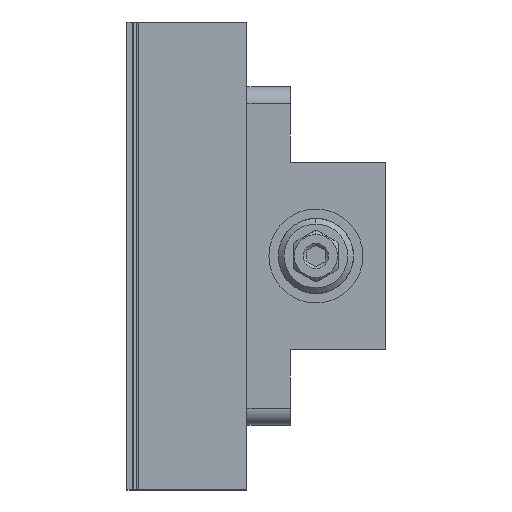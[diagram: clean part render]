
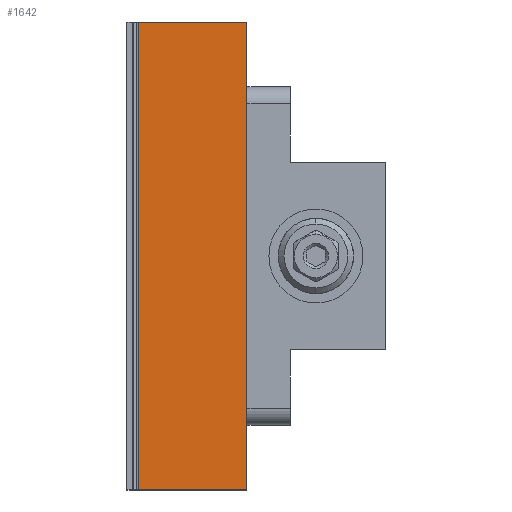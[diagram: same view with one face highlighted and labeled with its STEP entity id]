
A CAD part, left-side view. The second image highlights one B-rep face of the part: STEP entity #1642.
In plain terms, the highlighted planar face has unit normal (-1, 0, 0).
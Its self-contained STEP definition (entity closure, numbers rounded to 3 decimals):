
#92 = EDGE_LOOP ( 'NONE', ( #1318, #959, #573, #800 ) ) ;
#108 = VECTOR ( 'NONE', #278, 1000. ) ;
#150 = LINE ( 'NONE', #1844, #3733 ) ;
#272 = VECTOR ( 'NONE', #1471, 1000. ) ;
#278 = DIRECTION ( 'NONE',  ( 0., 1., 0. ) ) ;
#393 = EDGE_CURVE ( 'NONE', #2343, #936, #150, .T. ) ;
#573 = ORIENTED_EDGE ( 'NONE', *, *, #2597, .T. ) ;
#682 = PLANE ( 'NONE',  #2507 ) ;
#800 = ORIENTED_EDGE ( 'NONE', *, *, #393, .T. ) ;
#936 = VERTEX_POINT ( 'NONE', #3446 ) ;
#959 = ORIENTED_EDGE ( 'NONE', *, *, #2103, .F. ) ;
#1045 = DIRECTION ( 'NONE',  ( 1., 0., 0. ) ) ;
#1318 = ORIENTED_EDGE ( 'NONE', *, *, #3376, .T. ) ;
#1396 = CARTESIAN_POINT ( 'NONE',  ( -16.5, 47.35, 62.3 ) ) ;
#1471 = DIRECTION ( 'NONE',  ( 0., 0., 1. ) ) ;
#1642 = ADVANCED_FACE ( 'NONE', ( #3639 ), #682, .F. ) ;
#1844 = CARTESIAN_POINT ( 'NONE',  ( -16.5, 18.35, 45. ) ) ;
#1889 = CARTESIAN_POINT ( 'NONE',  ( -16.5, 47.35, -62.3 ) ) ;
#2103 = EDGE_CURVE ( 'NONE', #3465, #3831, #4013, .T. ) ;
#2343 = VERTEX_POINT ( 'NONE', #4929 ) ;
#2386 = DIRECTION ( 'NONE',  ( 0., 0., -1. ) ) ;
#2507 = AXIS2_PLACEMENT_3D ( 'NONE', #5275, #1045, #2386 ) ;
#2597 = EDGE_CURVE ( 'NONE', #3465, #2343, #3965, .T. ) ;
#2796 = DIRECTION ( 'NONE',  ( 0., -1., 0. ) ) ;
#2853 = LINE ( 'NONE', #4531, #108 ) ;
#3159 = CARTESIAN_POINT ( 'NONE',  ( -16.5, 50.35, -62.3 ) ) ;
#3376 = EDGE_CURVE ( 'NONE', #936, #3831, #2853, .T. ) ;
#3446 = CARTESIAN_POINT ( 'NONE',  ( -16.5, 18.35, 62.3 ) ) ;
#3465 = VERTEX_POINT ( 'NONE', #5080 ) ;
#3572 = DIRECTION ( 'NONE',  ( 0., 0., 1. ) ) ;
#3639 = FACE_OUTER_BOUND ( 'NONE', #92, .T. ) ;
#3733 = VECTOR ( 'NONE', #3572, 1000. ) ;
#3831 = VERTEX_POINT ( 'NONE', #1396 ) ;
#3965 = LINE ( 'NONE', #3159, #4271 ) ;
#4013 = LINE ( 'NONE', #1889, #272 ) ;
#4271 = VECTOR ( 'NONE', #2796, 1000. ) ;
#4531 = CARTESIAN_POINT ( 'NONE',  ( -16.5, 18.35, 62.3 ) ) ;
#4929 = CARTESIAN_POINT ( 'NONE',  ( -16.5, 18.35, -62.3 ) ) ;
#5080 = CARTESIAN_POINT ( 'NONE',  ( -16.5, 47.35, -62.3 ) ) ;
#5275 = CARTESIAN_POINT ( 'NONE',  ( -16.5, 6.85, 25. ) ) ;
